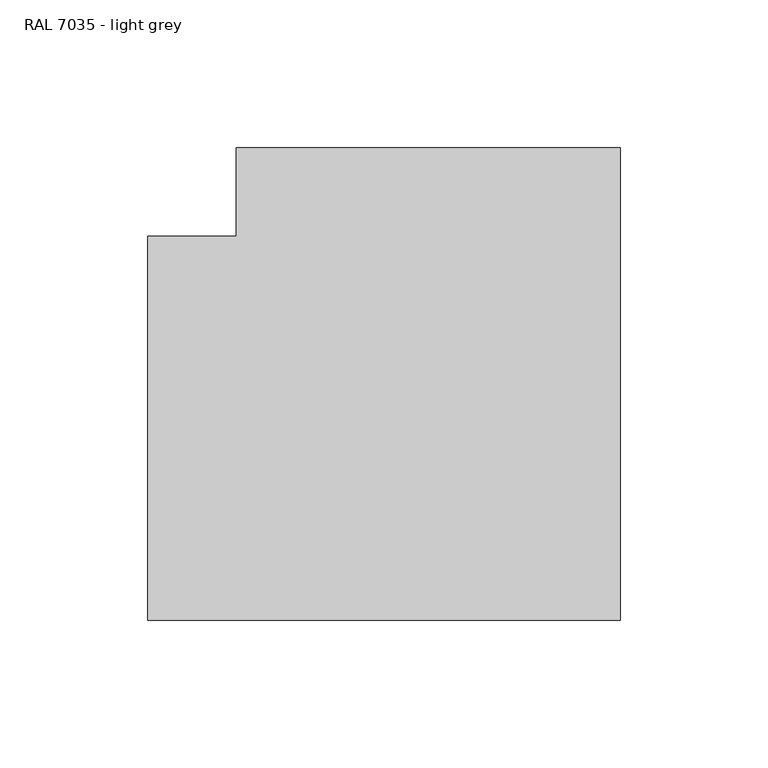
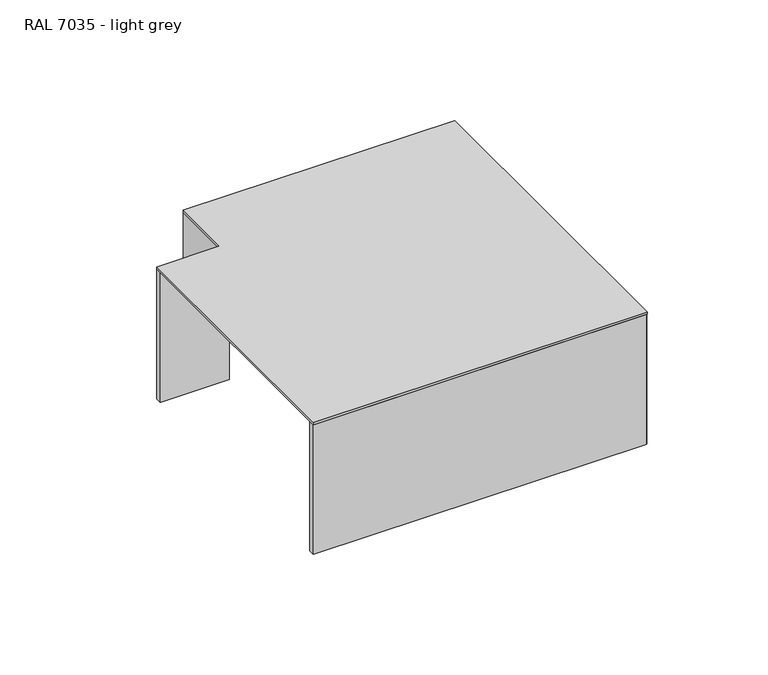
"""IFC4 building model written with IfcOpenShell, lengths in millimetres: cable carrier fitting geometry, Electrical_Installations_Hager_BRP-Flat-Corner-PC-ABS-Vertical-Inside-And-Outside-Bend-One-Compartment : RAL 7035 - light grey."""

from ifc_helpers import new_model, si_unit, point, frame, frame_2d, origin, place, context, project, spatial, polyline, circle_curve, trimmed, segment, composite_curve, outline, extrude, source, transform, mapped, element, save


def ral_7035_light_grey_9cf4eb19(model_context):
    return source(origin(), model_context, "Body", "SweptSolid", [
        extrude(outline(polyline([(-65.0, 95.0), (65.0, 95.0), (65.0, -65.0), (-95.0, -65.0), (-95.0, 65.0), (-65.0, 65.0), (-65.0, 95.0)])), frame((0.0, 0.0, 32.8402081), z_axis=(0.0, 0.0, 1.0), x_axis=(1.0, 0.0, 0.0)), (0.0, 0.0, 1.0), 1.1597919),
        extrude(outline(composite_curve([segment(polyline([(64.3130803, -65.0), (-95.0, -65.0), (-95.0, -62.0), (62.0, -62.0), (62.0, 95.0), (65.0, 95.0), (65.0, -64.3130803)]), True, "CONTINUOUS"), segment(trimmed(circle_curve(frame_2d((64.3130803, -64.3130803)), 0.6869197), [point((65.0, -64.3130803))], [point((64.3130803, -65.0))], False, "CARTESIAN"), True, "CONTINUOUS")], self_intersect=False)), frame((0.0, 0.0, -32.8402081), z_axis=(0.0, 0.0, 1.0), x_axis=(1.0, 0.0, 0.0)), (0.0, 0.0, 1.0), 65.6804162),
        extrude(outline(polyline([(-65.0, 65.0), (-65.0, 95.0), (-62.0, 95.0), (-62.0, 62.0), (-95.0, 62.0), (-95.0, 65.0), (-65.0, 65.0)])), frame((0.0, 0.0, -32.8402081), z_axis=(0.0, 0.0, 1.0), x_axis=(1.0, 0.0, 0.0)), (0.0, 0.0, 1.0), 65.6804162),
    ])


if __name__ == "__main__":
    model = new_model("IFC4")
    model_context = context("Model", 3, world=origin())
    ifc_project = project(units=[si_unit("LENGTHUNIT", "METRE", prefix="MILLI")], contexts=[model_context])
    site = spatial("IfcSite", under=ifc_project)
    building = spatial("IfcBuilding", under=site)
    placement = place(None, origin())
    ral_7035_light_grey_shape = ral_7035_light_grey_9cf4eb19(model_context)
    element("IfcCableCarrierFitting", 1, ObjectType="Electrical_Installations_Hager_BRP-Flat-Corner-PC-ABS-Vertical-Inside-And-Outside-Bend-One-Compartment : RAL 7035 - light grey", at=placement, inside=building, context=model_context, shape_type="MappedRepresentation", body=[
        mapped(ral_7035_light_grey_shape, transform((0.0, 0.0, 0.0), x_axis=(1.0, 0.0, 0.0), y_axis=(0.0, 1.0, 0.0), z_axis=(0.0, 0.0, 1.0))),
    ])
    save(model, "model.ifc")
